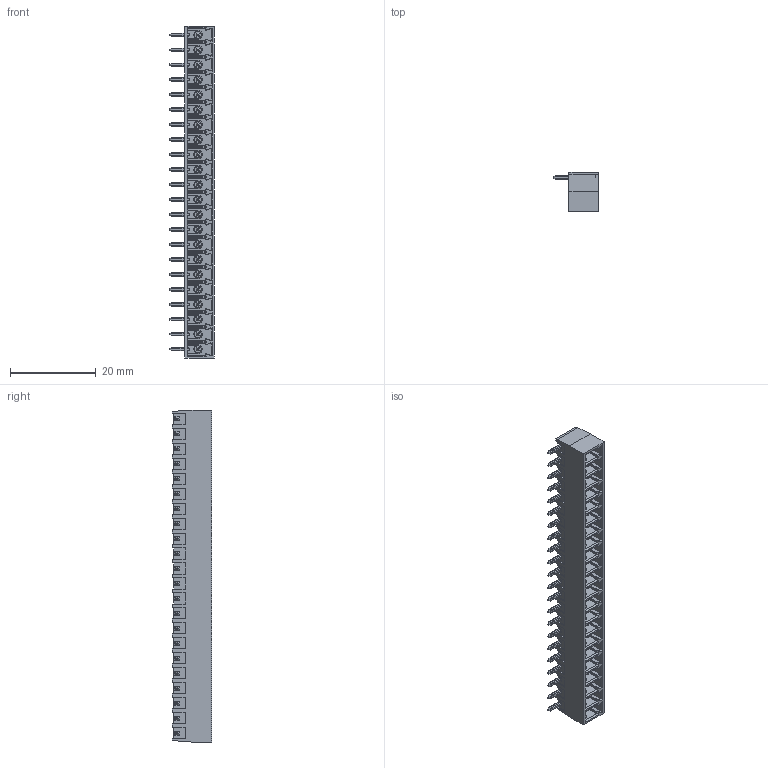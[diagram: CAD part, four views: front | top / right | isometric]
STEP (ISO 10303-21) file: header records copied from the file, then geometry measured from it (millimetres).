
FILE_DESCRIPTION (( 'STEP AP214' ), '1' );
FILE_NAME ('110-M-111-22.STEP', '2007-10-28T23:54:36', ( ' ' ), ( '' ), 'SwSTEP 2.0', 'SolidWorks 2007', '' );
FILE_SCHEMA (( 'AUTOMOTIVE_DESIGN' ));
Products named in the file (1): 110-M-111-22
Bounding box: 10.5 x 9.2 x 77.6 mm (x, y, z)
Volume: 2045.5 mm3; surface area: 7131.2 mm2
Topology: 1 solids, 1 shells, 4171 faces, 11758 edges, 7551 vertices
Faces by surface type: plane 2846, cylinder 1005, bspline 152, cone 146, sphere 22
Entity records: 144164 total; most frequent: CARTESIAN_POINT 47600, ORIENTED_EDGE 23440, DIRECTION 14982, EDGE_CURVE 11720, VERTEX_POINT 7551, VECTOR 6274, LINE 6274, B_SPLINE_CURVE_WITH_KNOTS 4988
